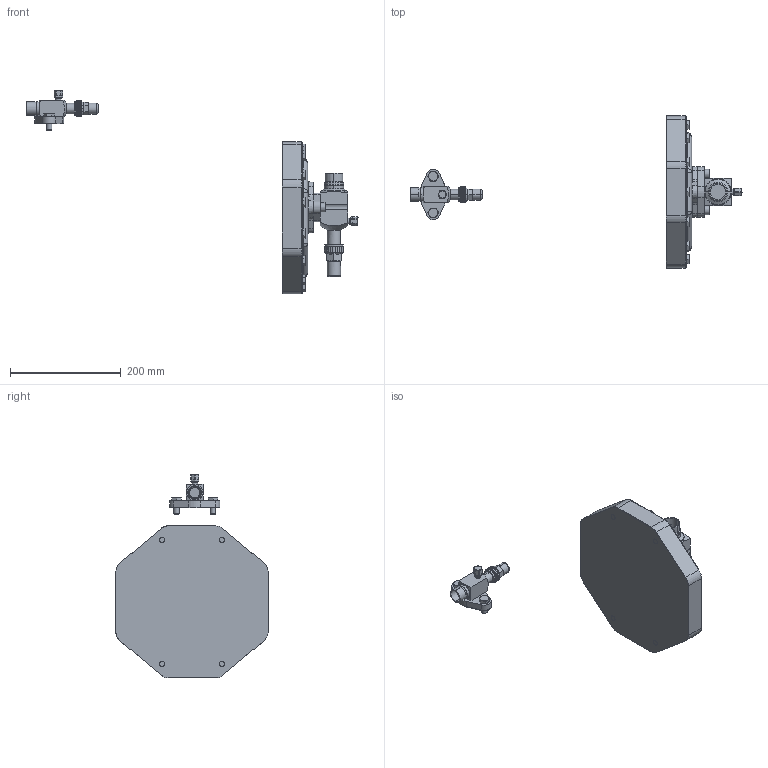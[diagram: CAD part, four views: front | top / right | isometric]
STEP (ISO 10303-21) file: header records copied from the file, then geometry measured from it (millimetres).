
FILE_DESCRIPTION(/* description */ (''),/* implementation_level */ '2;1');
FILE_NAME(/* name */ '4VE-S.stp',/* time_stamp */ '2023-10-24T07:48:18+02:00',/* author */ (''),/* organization */ (''),/* preprocessor_version */ 'ST-DEVELOPER v19.3',/* originating_system */ 'SIEMENS PLM Software NX2212.3001',/* authorisation */ '');
FILE_SCHEMA (('AUTOMOTIVE_DESIGN { 1 0 10303 214 3 1 1 1 }'));
Length unit declared in the file: millimetre
Products named in the file (4): HOUSING-COVER-4VC-4NC-12; SHUT-OFF-VALVE-D22L-7-8-HCD; SHUT-OFF-VALVE-D28L-1-1-8L; 4VE-S
Assembly tree (3 placements, depth 2):
  4VE-S
    SHUT-OFF-VALVE-D28L-1-1-8L
    SHUT-OFF-VALVE-D22L-7-8-HCD
    HOUSING-COVER-4VC-4NC-12
Bounding box: 600.35 x 275 x 368.63 mm (x, y, z)
Volume: 3079250.3 mm3; surface area: 236116 mm2
Topology: 3 solids, 3 shells, 1020 faces, 2614 edges, 1670 vertices
Faces by surface type: plane 446, cylinder 257, cone 139, bspline 120, torus 58
Full cylindrical faces by diameter (mm): 8.985 x4, 9.732 x4, 10 x4, 11 x4, 14.2 x1, 14.63 x14, 16 x2, 18.5 x1, 31 x2, 32 x1
Entity records: 36132 total; most frequent: CARTESIAN_POINT 10442, ORIENTED_EDGE 4982, DIRECTION 4708, EDGE_CURVE 2491, AXIS2_PLACEMENT_3D 1793, VERTEX_POINT 1627, EDGE_LOOP 1168, LINE 1122
